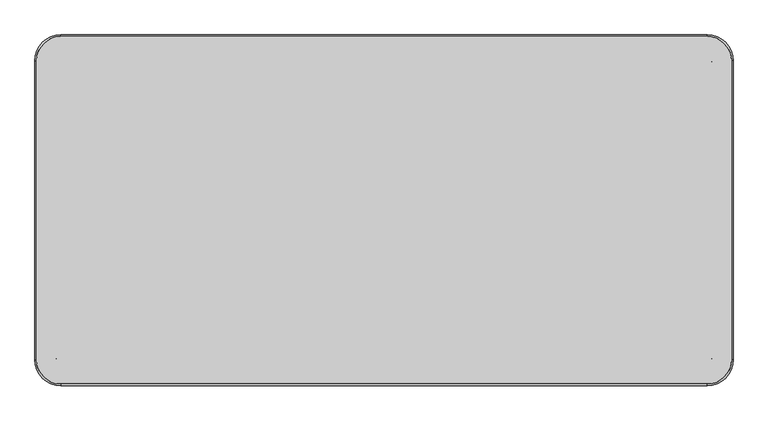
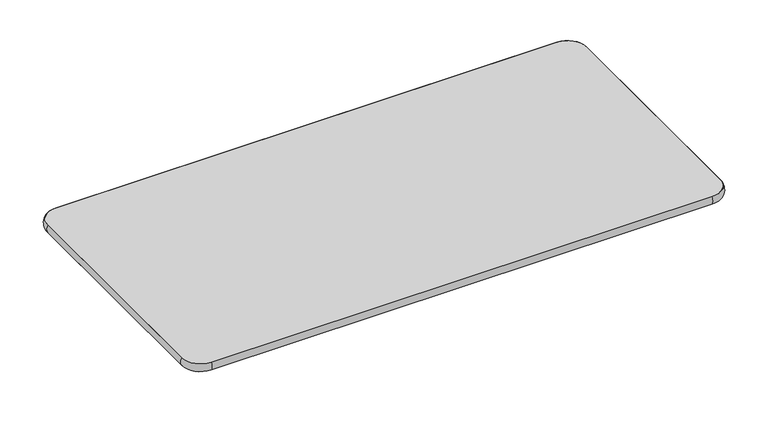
"""IFC4 building model written with IfcOpenShell, lengths in millimetres: furniture geometry, Mesa para refeitório : Mesa para refeitório 120x60cm cód 70469.6."""

from ifc_helpers import new_model, si_unit, point, frame, frame_2d, origin, place, context, project, spatial, polyline, circle_curve, ellipse_curve, trimmed, segment, composite_curve, outline, extrude, source, transform, mapped, element, save
from ifc_brep_helpers import plane_surface, cylinder_surface, revolved_surface, advanced_brep


def furniture_ba796456(model_context):
    return source(origin(), model_context, "Body", "SolidModel", [
        extrude(outline(composite_curve([segment(polyline([(-505.6618953, -42.5875081), (-567.0206397, -256.5708799), (-579.5170418, -252.9875943)]), True, "CONTINUOUS"), segment(trimmed(circle_curve(frame_2d((-578.138855, -248.1812858)), 5.0), [point((-579.5170418, -252.9875943))], [point((-582.9451635, -246.803099))], False, "CARTESIAN"), True, "CONTINUOUS"), segment(polyline([(-582.9451635, -246.803099), (-524.3872851, -42.5875081), (-505.6618953, -42.5875081)]), True, "CONTINUOUS")], self_intersect=False)), frame((0.0, 0.0, 740.0), z_axis=(0.0, 0.0, 1.0), x_axis=(1.0, 0.0, 0.0)), (0.0, 0.0, 1.0), 2.0),
        extrude(outline(composite_curve([segment(polyline([(505.6618953, 42.5875081), (567.0206397, 256.5708799), (579.5170418, 252.9875943)]), True, "CONTINUOUS"), segment(trimmed(circle_curve(frame_2d((578.138855, 248.1812858)), 5.0), [point((579.5170418, 252.9875943))], [point((582.9451635, 246.803099))], False, "CARTESIAN"), True, "CONTINUOUS"), segment(polyline([(582.9451635, 246.803099), (524.3872851, 42.5875081), (505.6618953, 42.5875081)]), True, "CONTINUOUS")], self_intersect=False)), frame((0.0, 0.0, 740.0), z_axis=(0.0, 0.0, 1.0), x_axis=(1.0, 0.0, 0.0)), (0.0, 0.0, 1.0), 2.0),
        extrude(outline(composite_curve([segment(polyline([(505.6618953, -42.5875081), (524.3872851, -42.5875081), (582.9451635, -246.803099)]), True, "CONTINUOUS"), segment(trimmed(circle_curve(frame_2d((578.138855, -248.1812858)), 5.0), [point((582.9451635, -246.803099))], [point((579.5170418, -252.9875943))], False, "CARTESIAN"), True, "CONTINUOUS"), segment(polyline([(579.5170418, -252.9875943), (567.0206397, -256.5708799), (505.6618953, -42.5875081)]), True, "CONTINUOUS")], self_intersect=False)), frame((0.0, 0.0, 740.0), z_axis=(0.0, 0.0, 1.0), x_axis=(1.0, 0.0, 0.0)), (0.0, 0.0, 1.0), 2.0),
        extrude(outline(composite_curve([segment(polyline([(505.6618953, -42.5875081), (523.7270534, -42.5875081), (523.7270534, -140.8530223)]), True, "CONTINUOUS"), segment(trimmed(circle_curve(frame_2d((518.7270534, -140.8530223)), 5.0), [point((523.7270534, -140.8530223))], [point((518.7270534, -145.8530223))], False, "CARTESIAN"), True, "CONTINUOUS"), segment(polyline([(518.7270534, -145.8530223), (505.6618953, -145.8530223), (505.6618953, -42.5875081)]), True, "CONTINUOUS")], self_intersect=False)), frame((0.0, 0.0, 740.0), z_axis=(0.0, 0.0, 1.0), x_axis=(1.0, 0.0, 0.0)), (0.0, 0.0, 1.0), 2.0),
        extrude(outline(polyline([(-499.6955742, 28.681337), (-499.6955742, -28.681337), (-501.5529394, -28.1300623), (-501.5529394, 28.1300623), (-499.6955742, 28.681337)])), frame((0.0, 0.0, 682.0), z_axis=(0.0, 0.0, 1.0), x_axis=(1.0, 0.0, 0.0)), (0.0, 0.0, 1.0), 60.0),
        extrude(outline(composite_curve([segment(polyline([(-60.1181829, 0.0), (0.0, 0.0), (0.0, -229.4943371)]), True, "CONTINUOUS"), segment(trimmed(circle_curve(frame_2d((-8.0489664, -229.4943371)), 8.0489664), [point((0.0, -229.4943371))], [point((-15.3438074, -232.8959773))], False, "CARTESIAN"), True, "CONTINUOUS"), segment(polyline([(-15.3438074, -232.8959773), (-60.1181829, 0.0)]), True, "CONTINUOUS")], self_intersect=False)), frame((-499.6955742, -28.681337, 742.0), z_axis=(-0.961261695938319, 0.2756373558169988, 0.0), x_axis=(0.0, 0.0, 1.0)), (0.0, 0.0, 1.0), 1.932216),
        extrude(outline(composite_curve([segment(polyline([(60.1181829, 0.0), (15.3438074, -232.8959773)]), True, "CONTINUOUS"), segment(trimmed(circle_curve(frame_2d((8.0489664, -229.4943371)), 8.0489664), [point((15.3438074, -232.8959773))], [point((0.0, -229.4943371))], False, "CARTESIAN"), True, "CONTINUOUS"), segment(polyline([(0.0, -229.4943371), (0.0, 0.0), (60.1181829, 0.0)]), True, "CONTINUOUS")], self_intersect=False)), frame((501.5162894, 28.1300623, 742.0), z_axis=(-0.961261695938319, 0.2756373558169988, 0.0), x_axis=(0.0, 0.0, -1.0)), (0.0, 0.0, 1.0), 2.0),
        extrude(outline(polyline([(499.593766, 28.681337), (501.5162894, 28.1300623), (501.5162894, -28.1300623), (499.593766, -28.681337), (499.593766, 28.681337)])), frame((0.0, 0.0, 682.0), z_axis=(0.0, 0.0, 1.0), x_axis=(1.0, 0.0, 0.0)), (0.0, 0.0, 1.0), 60.0),
        extrude(outline(composite_curve([segment(polyline([(-2.0, -20.0), (-2.0, -266.247878), (-15.0, -266.247878)]), True, "CONTINUOUS"), segment(trimmed(circle_curve(frame_2d((-15.0, -261.247878)), 5.0), [point((-15.0, -266.247878))], [point((-20.0, -261.247878))], False, "CARTESIAN"), True, "CONTINUOUS"), segment(polyline([(-20.0, -261.247878), (-20.0, -20.0), (-2.0, -20.0)]), True, "CONTINUOUS")], self_intersect=False)), frame((0.0, 0.0, 740.0), z_axis=(0.0, 0.0, 1.0), x_axis=(1.0, 0.0, 0.0)), (0.0, 0.0, 1.0), 2.0),
        extrude(outline(composite_curve([segment(polyline([(-20.0, 683.2373612), (-266.247878, 726.6561926)]), True, "CONTINUOUS"), segment(trimmed(circle_curve(frame_2d((-262.8462378, 733.9510336)), 8.0489664), [point((-266.247878, 726.6561926))], [point((-262.8462378, 742.0))], False, "CARTESIAN"), True, "CONTINUOUS"), segment(polyline([(-262.8462378, 742.0), (-20.0, 742.0), (-20.0, 683.2373612)]), True, "CONTINUOUS")], self_intersect=False)), frame((-2.0, 0.0, 0.0), z_axis=(1.0, 0.0, 0.0), x_axis=(0.0, 1.0, 0.0)), (0.0, 0.0, 1.0), 2.0),
        extrude(outline(composite_curve([segment(polyline([(0.0, 0.0), (237.1608757, 0.0)]), True, "CONTINUOUS"), segment(trimmed(circle_curve(frame_2d((235.1976245, -7.8058636)), 8.0489664), [point((237.1608757, 0.0))], [point((236.7172151, -15.7100843))], False, "CARTESIAN"), True, "CONTINUOUS"), segment(polyline([(236.7172151, -15.7100843), (11.3499079, -59.0370689), (0.0, 0.0)]), True, "CONTINUOUS")], self_intersect=False)), frame((499.593766, -28.681337, 681.8818171), z_axis=(0.9612616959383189, 0.27563735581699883, 0.0), x_axis=(0.2706805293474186, -0.943975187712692, 0.1887932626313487)), (0.0, 0.0, 1.0), 2.0),
        extrude(outline(composite_curve([segment(polyline([(-2.0, 20.0), (-20.0, 20.0), (-20.0, 261.247878)]), True, "CONTINUOUS"), segment(trimmed(circle_curve(frame_2d((-15.0, 261.247878)), 5.0), [point((-20.0, 261.247878))], [point((-15.0, 266.247878))], False, "CARTESIAN"), True, "CONTINUOUS"), segment(polyline([(-15.0, 266.247878), (-2.0, 266.247878), (-2.0, 20.0)]), True, "CONTINUOUS")], self_intersect=False)), frame((0.0, 0.0, 740.0), z_axis=(0.0, 0.0, 1.0), x_axis=(1.0, 0.0, 0.0)), (0.0, 0.0, 1.0), 2.0),
        extrude(outline(composite_curve([segment(polyline([(20.0, 683.2373612), (20.0, 742.0), (262.8462378, 742.0)]), True, "CONTINUOUS"), segment(trimmed(circle_curve(frame_2d((262.8462378, 733.9510336)), 8.0489664), [point((262.8462378, 742.0))], [point((266.247878, 726.6561926))], False, "CARTESIAN"), True, "CONTINUOUS"), segment(polyline([(266.247878, 726.6561926), (20.0, 683.2373612)]), True, "CONTINUOUS")], self_intersect=False)), frame((-2.0, 0.0, 0.0), z_axis=(1.0, 0.0, 0.0), x_axis=(0.0, 1.0, 0.0)), (0.0, 0.0, 1.0), 2.0),
        extrude(outline(polyline([(500.0651581, -20.0), (-500.0651581, -20.0), (-500.0651581, 20.0), (500.0651581, 20.0), (500.0651581, -20.0)])), frame((0.0, 0.0, 682.0), z_axis=(0.0, 0.0, 1.0), x_axis=(1.0, 0.0, 0.0)), (0.0, 0.0, 1.0), 60.0),
        advanced_brep(
        [(600.0, -258.1259063, 760.0), (558.1259063, -300.0, 760.0), (558.1259063, -300.0, 742.0), (600.0, -258.1259063, 742.0), (600.0, 258.1259063, 742.0), (600.0, 258.1259063, 760.0), (558.1259063, 300.0, 760.0), (558.1259063, 300.0, 742.0), (-558.2277145, 300.0, 742.0), (-558.2277145, 300.0, 760.0), (-600.0, 258.2277145, 760.0), (-600.0, 258.2277145, 742.0), (-600.0, -258.2277145, 742.0), (-600.0, -258.2277145, 760.0), (-558.2277145, -300.0, 760.0), (-558.2277145, -300.0, 742.0)],
        [
            (0, 1, circle_curve(frame((558.1259063, -258.1259063, 760.0), z_axis=(0.0, 0.0, -1.0), x_axis=(0.0, -1.0, 0.0)), 41.8740937)),
            (1, 2, circle_curve(frame((558.1259063, -286.6032084, 751.0), z_axis=(1.0, 0.0, 0.0), x_axis=(0.0, 1.0, 0.0)), 16.1392077)),
            (2, 3, circle_curve(frame((558.1259063, -258.1259063, 742.0), z_axis=(0.0, 0.0, 1.0), x_axis=(0.0, -1.0, 0.0)), 41.8740937)),
            (3, 0, circle_curve(frame((586.6032084, -258.1259063, 751.0), z_axis=(0.0, -1.0, 0.0), x_axis=(-1.0, 0.0, 0.0)), 16.1392077)),
            (2, 1),
            (0, 3),
            (3, 4),
            (4, 5, circle_curve(frame((586.6032084, 258.1259063, 751.0), z_axis=(0.0, -1.0, 0.0), x_axis=(-1.0, 0.0, 0.0)), 16.1392077)),
            (5, 0),
            (5, 4),
            (6, 5, circle_curve(frame((558.1259063, 258.1259063, 760.0), z_axis=(0.0, 0.0, -1.0), x_axis=(1.0, 0.0, 0.0)), 41.8740937)),
            (4, 7, circle_curve(frame((558.1259063, 258.1259063, 742.0), z_axis=(0.0, 0.0, 1.0), x_axis=(1.0, 0.0, 0.0)), 41.8740937)),
            (7, 6, circle_curve(frame((558.1259063, 286.6032084, 751.0), z_axis=(1.0, 0.0, 0.0), x_axis=(0.0, -1.0, 0.0)), 16.1392077)),
            (6, 7),
            (7, 8),
            (8, 9, circle_curve(frame((-558.2277145, 286.6032084, 751.0), z_axis=(1.0, 0.0, 0.0), x_axis=(0.0, -1.0, 0.0)), 16.1392077)),
            (9, 6),
            (9, 8),
            (10, 9, circle_curve(frame((-558.2277145, 258.2277145, 760.0), z_axis=(0.0, 0.0, -1.0), x_axis=(0.0, 1.0, 0.0)), 41.7722855)),
            (8, 11, circle_curve(frame((-558.2277145, 258.2277145, 742.0), z_axis=(0.0, 0.0, 1.0), x_axis=(0.0, 1.0, 0.0)), 41.7722855)),
            (11, 10, circle_curve(frame((-586.6032084, 258.2277145, 751.0), z_axis=(0.0, 1.0, 0.0), x_axis=(1.0, 0.0, 0.0)), 16.1392077)),
            (10, 11),
            (11, 12),
            (12, 13, circle_curve(frame((-586.6032084, -258.2277145, 751.0), z_axis=(0.0, 1.0, 0.0), x_axis=(1.0, 0.0, 0.0)), 16.1392077)),
            (13, 10),
            (13, 12),
            (14, 13, circle_curve(frame((-558.2277145, -258.2277145, 760.0), z_axis=(0.0, 0.0, -1.0), x_axis=(-1.0, 0.0, 0.0)), 41.7722855)),
            (12, 15, circle_curve(frame((-558.2277145, -258.2277145, 742.0), z_axis=(0.0, 0.0, 1.0), x_axis=(-1.0, 0.0, 0.0)), 41.7722855)),
            (15, 14, circle_curve(frame((-558.2277145, -286.6032084, 751.0), z_axis=(-1.0, 0.0, 0.0), x_axis=(0.0, 1.0, 0.0)), 16.1392077)),
            (14, 15),
            (15, 2),
            (1, 14),
        ],
        [
            revolved_surface(trimmed(ellipse_curve(frame((558.1259063, -286.6032084, 751.0), z_axis=(-1.0, 0.0, 0.0), x_axis=(0.0, 1.0, 0.0)), 16.1392077, 16.1392077), [point((558.1259063, -300.0, 742.0))], [point((558.1259063, -300.0, 760.0))], True, "CARTESIAN"), (558.1259063, -258.1259063, 760.0), (0.0, 0.0, 1.0)),
            revolved_surface(polyline([(558.1259063, -300.0, 760.0), (558.1259063, -300.0, 742.0)]), (558.1259063, -258.1259063, 760.0), (0.0, 0.0, 1.0)),
            cylinder_surface(frame((586.6032084, -258.1259063, 751.0), z_axis=(0.0, -1.0, 0.0), x_axis=(-1.0, 0.0, 0.0)), 16.1392077),
            plane_surface(frame((600.0, -258.1259063, 760.0), z_axis=(-1.0, 0.0, 0.0), x_axis=(0.0, 1.0, 0.0))),
            revolved_surface(trimmed(ellipse_curve(frame((586.6032084, 258.1259063, 751.0), z_axis=(0.0, -1.0, 0.0), x_axis=(-1.0, 0.0, 0.0)), 16.1392077, 16.1392077), [point((600.0, 258.1259063, 742.0))], [point((600.0, 258.1259063, 760.0))], True, "CARTESIAN"), (558.1259063, 258.1259063, 760.0), (0.0, 0.0, 1.0)),
            revolved_surface(polyline([(600.0, 258.1259063, 760.0), (600.0, 258.1259063, 742.0)]), (558.1259063, 258.1259063, 760.0), (0.0, 0.0, 1.0)),
            cylinder_surface(frame((558.1259063, 286.6032084, 751.0), z_axis=(1.0, 0.0, 0.0), x_axis=(0.0, -1.0, 0.0)), 16.1392077),
            plane_surface(frame((558.1259063, 300.0, 760.0), z_axis=(0.0, -1.0, 0.0), x_axis=(-1.0, 0.0, 0.0))),
            revolved_surface(trimmed(ellipse_curve(frame((-558.2277145, 286.6032084, 751.0), z_axis=(1.0, 0.0, 0.0), x_axis=(0.0, -1.0, 0.0)), 16.1392077, 16.1392077), [point((-558.2277145, 300.0, 742.0))], [point((-558.2277145, 300.0, 760.0))], True, "CARTESIAN"), (-558.2277145, 258.2277145, 760.0), (0.0, 0.0, 1.0)),
            revolved_surface(polyline([(-558.2277145, 300.0, 760.0), (-558.2277145, 300.0, 742.0)]), (-558.2277145, 258.2277145, 760.0), (0.0, 0.0, 1.0)),
            cylinder_surface(frame((-586.6032084, 258.2277145, 751.0), z_axis=(0.0, 1.0, 0.0), x_axis=(1.0, 0.0, 0.0)), 16.1392077),
            plane_surface(frame((-600.0, 258.2277145, 760.0), z_axis=(1.0, 0.0, 0.0), x_axis=(0.0, -1.0, 0.0))),
            revolved_surface(trimmed(ellipse_curve(frame((-586.6032084, -258.2277145, 751.0), z_axis=(0.0, 1.0, 0.0), x_axis=(1.0, 0.0, 0.0)), 16.1392077, 16.1392077), [point((-600.0, -258.2277145, 742.0))], [point((-600.0, -258.2277145, 760.0))], True, "CARTESIAN"), (-558.2277145, -258.2277145, 760.0), (0.0, 0.0, 1.0)),
            revolved_surface(polyline([(-600.0, -258.2277145, 760.0), (-600.0, -258.2277145, 742.0)]), (-558.2277145, -258.2277145, 760.0), (0.0, 0.0, 1.0)),
            cylinder_surface(frame((-558.2277145, -286.6032084, 751.0), z_axis=(-1.0, 0.0, 0.0), x_axis=(0.0, 1.0, 0.0)), 16.1392077),
            plane_surface(frame((-558.2277145, -300.0, 760.0), z_axis=(0.0, 1.0, 0.0), x_axis=(1.0, 0.0, 0.0))),
        ],
        [
            (0, [[1, 2, 3, 4]]),
            (1, [[-3, 5, -1, 6]]),
            (2, [[-4, 7, 8, 9]]),
            (3, [[-6, -9, 10, -7]]),
            (4, [[11, -8, 12, 13]]),
            (5, [[-12, -10, -11, 14]]),
            (6, [[-13, 15, 16, 17]]),
            (7, [[-14, -17, 18, -15]]),
            (8, [[19, -16, 20, 21]]),
            (9, [[-20, -18, -19, 22]]),
            (10, [[-21, 23, 24, 25]]),
            (11, [[-22, -25, 26, -23]]),
            (12, [[27, -24, 28, 29]]),
            (13, [[-28, -26, -27, 30]]),
            (14, [[-29, 31, -2, 32]]),
            (15, [[-30, -32, -5, -31]]),
        ],
    ),
        extrude(outline(composite_curve([segment(trimmed(circle_curve(frame_2d((558.1259063, 258.1259063)), 41.8740937), [point((558.1259063, 300.0))], [point((600.0, 258.1259063))], False, "CARTESIAN"), True, "CONTINUOUS"), segment(polyline([(600.0, 258.1259063), (600.0, -258.1259063)]), True, "CONTINUOUS"), segment(trimmed(circle_curve(frame_2d((558.1259063, -258.1259063)), 41.8740937), [point((600.0, -258.1259063))], [point((558.1259063, -300.0))], False, "CARTESIAN"), True, "CONTINUOUS"), segment(polyline([(558.1259063, -300.0), (-558.2277145, -300.0)]), True, "CONTINUOUS"), segment(trimmed(circle_curve(frame_2d((-558.2277145, -258.2277145)), 41.7722855), [point((-558.2277145, -300.0))], [point((-600.0, -258.2277145))], False, "CARTESIAN"), True, "CONTINUOUS"), segment(polyline([(-600.0, -258.2277145), (-600.0, 258.2277145)]), True, "CONTINUOUS"), segment(trimmed(circle_curve(frame_2d((-558.2277145, 258.2277145)), 41.7722855), [point((-600.0, 258.2277145))], [point((-558.2277145, 300.0))], False, "CARTESIAN"), True, "CONTINUOUS"), segment(polyline([(-558.2277145, 300.0), (558.1259063, 300.0)]), True, "CONTINUOUS")], self_intersect=False)), frame((0.0, 0.0, 742.0), z_axis=(0.0, 0.0, 1.0), x_axis=(1.0, 0.0, 0.0)), (0.0, 0.0, 1.0), 18.0),
    ])


if __name__ == "__main__":
    model = new_model("IFC4")
    model_context = context("Model", 3, world=origin())
    ifc_project = project(units=[si_unit("LENGTHUNIT", "METRE", prefix="MILLI")], contexts=[model_context])
    site = spatial("IfcSite", under=ifc_project)
    building = spatial("IfcBuilding", under=site)
    placement = place(None, origin())
    furniture_shape = furniture_ba796456(model_context)
    element("IfcFurniture", 1, ObjectType="Mesa para refeitório : Mesa para refeitório 120x60cm cód 70469.6", at=placement, inside=building, context=model_context, shape_type="MappedRepresentation", body=[
        mapped(furniture_shape, transform((0.0, 0.0, 0.0), x_axis=(1.0, 0.0, 0.0), y_axis=(0.0, 1.0, 0.0), z_axis=(0.0, 0.0, 1.0))),
    ])
    save(model, "model.ifc")
